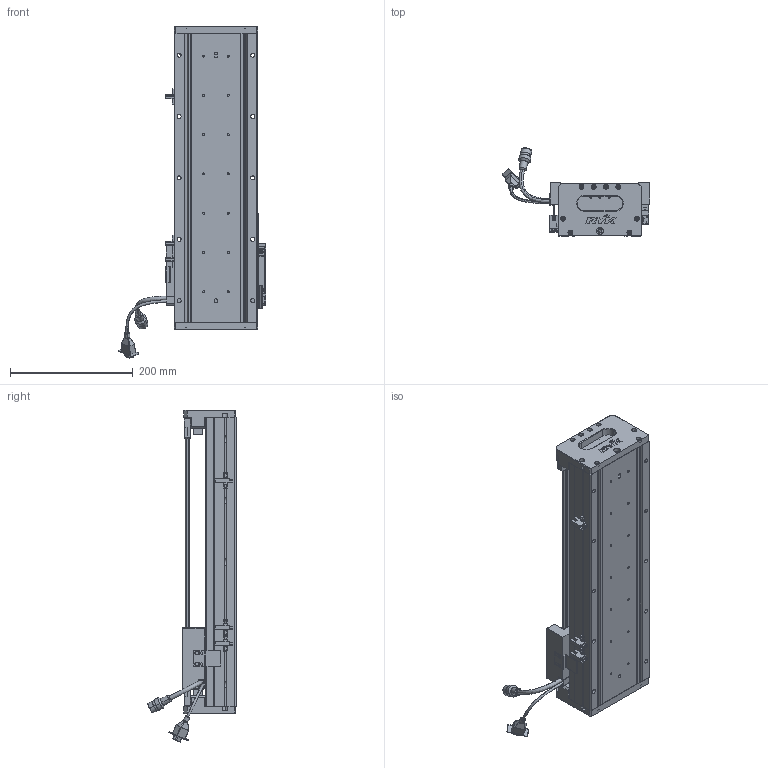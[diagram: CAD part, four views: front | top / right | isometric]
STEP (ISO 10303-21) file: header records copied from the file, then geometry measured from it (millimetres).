
FILE_DESCRIPTION (( 'STEP AP203' ), '1' );
FILE_NAME ('Z1-RY140D-1-L500-B-K.SLDASM_0300.step', '2021-05-17T07:30:23', ( '盈信电脑' ), ( '东莞市道滘镇水果街19号' ), 'SwSTEP 2.0', 'SolidWorks 2016', '' );
FILE_SCHEMA (( 'CONFIG_CONTROL_DESIGN' ));
Length unit declared in the file: millimetre
Products named in the file (36): SCREW-M1.6-2; SCREW-M1.6-1; SCALE; Z-RY140詩湍奻揤裔; COVER; COVER-Part-1; Z1-RY140圉猾敕臏賑輸(21遴); HARNESS-Part-1; Z-RY140感应器672光电感应片; 080黍杅芛假蚾釱21遴; SEAL-Part-1; SCREW-M1.6-3; Z1-RY140D-1-L500-B-K.SLDASM_0300; SCREW-M1.6; LABEL; SHIELDPLATE; Z1-RY140-L500直线电机模组底座_0300; SCALE-Part-2; HARNESS-Part-2; 覜茼ん672; PSLH080_PSLF2; 榋妏寠巭燃_暯_M2_2; Z-RY140詩湍狟揤裔; HOLDER0; Z-140詩湍傷裔啣; HARNESS; 140雄赽晤鎢ん堤盄; PBU_SHEET; Z1-RY140-L500詩湍100mm遵_0300; 140-Z-臏賑輸盄裔(21遴); SCREW-M1.7-1; SCALE-Part-1; 140蚥薯蝶輸; LABEL-Part-1; SCREW-M1.7; SEAL
Assembly tree (41 placements, depth 4):
  Z1-RY140D-1-L500-B-K.SLDASM_0300
    Z1-RY140-L500直线电机模组底座_0300
    Z-RY140感应器672光电感应片
    Z1-RY140圉猾敕臏賑輸(21遴)
    覜茼ん672  x3
    Z1-RY140-L500詩湍100mm遵_0300
    PSLH080_PSLF2
      SCALE
        SCALE-Part-1
        SCALE-Part-2
      HARNESS
        HARNESS-Part-1
        HARNESS-Part-2
      LABEL
        LABEL-Part-1
      COVER
        COVER-Part-1
      SEAL
        SEAL-Part-1
      榋妏寠巭燃_暯_M2_2
      SHIELDPLATE
      SCREW-M1.7
      SCREW-M1.7-1
      PBU_SHEET
      SCREW-M1.6
      SCREW-M1.6-1
      SCREW-M1.6-2
      SCREW-M1.6-3
      HOLDER0
    080黍杅芛假蚾釱21遴
    140-Z-臏賑輸盄裔(21遴)
    Z-140詩湍傷裔啣  x2
    Z-RY140詩湍狟揤裔  x2
    Z-RY140詩湍奻揤裔  x2
    140蚥薯蝶輸  x2
    140雄赽晤鎢ん堤盄
Bounding box: 239.84 x 143.88 x 540.88 mm (x, y, z)
Volume: 2130082.1 mm3; surface area: 578522.5 mm2
Topology: 36 solids, 36 shells, 2498 faces, 6492 edges, 4119 vertices
Faces by surface type: cylinder 1082, plane 1064, cone 230, torus 69, bspline 53
Entity records: 70144 total; most frequent: CARTESIAN_POINT 16765, DIRECTION 10384, ORIENTED_EDGE 10216, EDGE_CURVE 5108, AXIS2_PLACEMENT_3D 3770, VERTEX_POINT 3287, LINE 2844, VECTOR 2844
